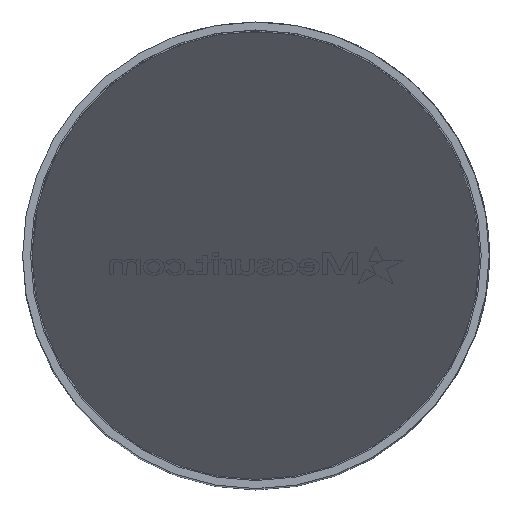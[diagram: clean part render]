
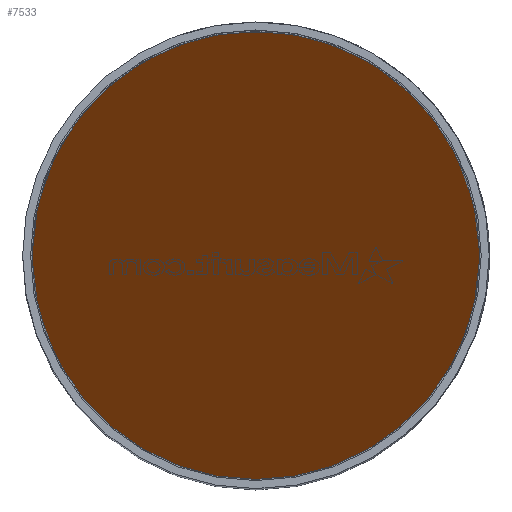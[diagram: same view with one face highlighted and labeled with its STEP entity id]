
A CAD part, top view. The second image highlights one B-rep face of the part: STEP entity #7533.
In plain terms, the highlighted planar face has unit normal (0, -0.707, 0.707).
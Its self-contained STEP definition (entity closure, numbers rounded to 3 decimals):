
#1717 = ORIENTED_EDGE ( 'NONE', *, *, #51370, .T. ) ;
#3706 = DIRECTION ( 'NONE',  ( 0., 0.707, 0.707 ) ) ;
#7533 = ADVANCED_FACE ( 'NONE', ( #19637 ), #69667, .F. ) ;
#10199 =( BOUNDED_CURVE ( )  B_SPLINE_CURVE ( 3, ( #19335, #71724, #48075, #91015 ),
 .UNSPECIFIED., .F., .T. ) 
 B_SPLINE_CURVE_WITH_KNOTS ( ( 4, 4 ),
 ( 4.712, 7.854 ),
 .UNSPECIFIED. ) 
 CURVE ( )  GEOMETRIC_REPRESENTATION_ITEM ( )  RATIONAL_B_SPLINE_CURVE ( ( 1., 0.333, 0.333, 1. ) ) 
 REPRESENTATION_ITEM ( '' )  );
#12621 = CARTESIAN_POINT ( 'NONE',  ( 1524.143, -452.414, 452.414 ) ) ;
#19335 = CARTESIAN_POINT ( 'NONE',  ( -504., 0., 904.828 ) ) ;
#19637 = FACE_OUTER_BOUND ( 'NONE', #32561, .T. ) ;
#21103 = CARTESIAN_POINT ( 'NONE',  ( 504., 1008., 1912.828 ) ) ;
#22034 = CARTESIAN_POINT ( 'NONE',  ( 504., 0., 904.828 ) ) ;
#22111 = VERTEX_POINT ( 'NONE', #73132 ) ;
#27714 = CARTESIAN_POINT ( 'NONE',  ( -504., 1008., 1912.828 ) ) ;
#32561 = EDGE_LOOP ( 'NONE', ( #1717, #84347 ) ) ;
#38578 = AXIS2_PLACEMENT_3D ( 'NONE', #12621, #77647, #3706 ) ;
#41646 = EDGE_CURVE ( 'NONE', #60620, #22111, #57789, .T. ) ;
#48075 = CARTESIAN_POINT ( 'NONE',  ( 504., -1008., -103.172 ) ) ;
#49825 = CARTESIAN_POINT ( 'NONE',  ( -504., 0., 904.828 ) ) ;
#51370 = EDGE_CURVE ( 'NONE', #22111, #60620, #10199, .T. ) ;
#57789 =( BOUNDED_CURVE ( )  B_SPLINE_CURVE ( 3, ( #22034, #21103, #27714, #49825 ),
 .UNSPECIFIED., .F., .T. ) 
 B_SPLINE_CURVE_WITH_KNOTS ( ( 4, 4 ),
 ( 1.571, 4.712 ),
 .UNSPECIFIED. ) 
 CURVE ( )  GEOMETRIC_REPRESENTATION_ITEM ( )  RATIONAL_B_SPLINE_CURVE ( ( 1., 0.333, 0.333, 1. ) ) 
 REPRESENTATION_ITEM ( '' )  );
#60620 = VERTEX_POINT ( 'NONE', #67921 ) ;
#67921 = CARTESIAN_POINT ( 'NONE',  ( 504., 0., 904.828 ) ) ;
#69667 = PLANE ( 'NONE',  #38578 ) ;
#71724 = CARTESIAN_POINT ( 'NONE',  ( -504., -1008., -103.172 ) ) ;
#73132 = CARTESIAN_POINT ( 'NONE',  ( -504., 0., 904.828 ) ) ;
#77647 = DIRECTION ( 'NONE',  ( 0., 0.707, -0.707 ) ) ;
#84347 = ORIENTED_EDGE ( 'NONE', *, *, #41646, .T. ) ;
#91015 = CARTESIAN_POINT ( 'NONE',  ( 504., 0., 904.828 ) ) ;
